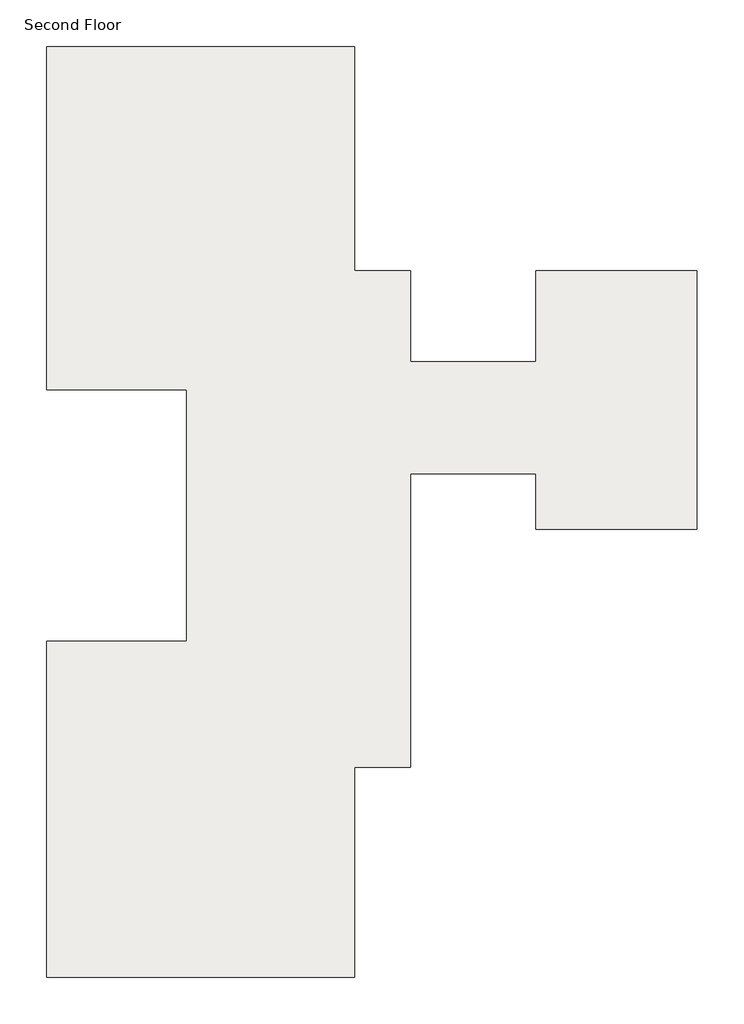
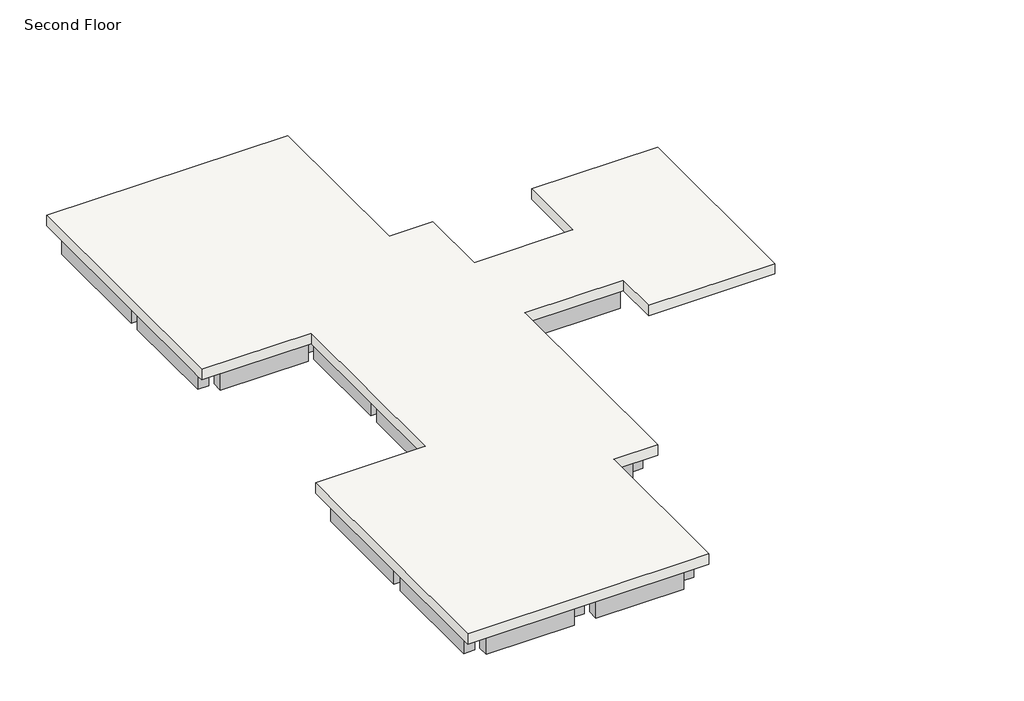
# One storey: 37 beams, 1 slab.
"""IFC4 building model written with IfcOpenShell, lengths in millimetres."""

from ifc_helpers import new_model, si_unit, frame, origin, place, context, project, spatial, polyline, outline, extrude, faceted_brep, element, save

model = new_model("IFC4")

# Units and contexts
model_context = context("Model", 3, world=origin())
ifc_project = project(units=[si_unit("LENGTHUNIT", "METRE", prefix="MILLI")], contexts=[model_context])

# Site, building, storey
site = spatial("IfcSite", under=ifc_project)
building = spatial("IfcBuilding", under=site)
storey = spatial("IfcBuildingStorey", under=building, Name="Second Floor", Elevation=3810.0)

# Beams
placement = place(None, origin())
element("IfcBeam", 1, ObjectType="Concrete-Rectangular Beam : 12 x 24", at=placement, inside=storey, context=model_context, shape_type="SweptSolid", body=[
    extrude(outline(polyline([(-12919.1663981, 10274.1487848), (-12919.1663981, 9969.3487848), (-15357.5663981, 9969.3487848), (-15357.5663981, 10274.1487848), (-12919.1663981, 10274.1487848)])), frame((0.0, 0.0, 2895.6), z_axis=(0.0, 0.0, 1.0), x_axis=(1.0, 0.0, 0.0)), (0.0, 0.0, 1.0), 609.6),
])
element("IfcBeam", 2, ObjectType="Concrete-Rectangular Beam : 12 x 24", at=placement, inside=storey, context=model_context, shape_type="SweptSolid", body=[
    extrude(outline(polyline([(-9871.1663981, 10274.1487848), (-9871.1663981, 9969.3487848), (-12309.5663981, 9969.3487848), (-12309.5663981, 10274.1487848), (-9871.1663981, 10274.1487848)])), frame((0.0, 0.0, 2895.6), z_axis=(0.0, 0.0, 1.0), x_axis=(1.0, 0.0, 0.0)), (0.0, 0.0, 1.0), 609.6),
])
element("IfcBeam", 3, ObjectType="Concrete-Rectangular Beam : 12 x 24", at=placement, inside=storey, context=model_context, shape_type="SweptSolid", body=[
    extrude(outline(polyline([(-15509.9663981, 6616.5487848), (-15814.7663981, 6616.5487848), (-15814.7663981, 9969.3487848), (-15509.9663981, 9969.3487848), (-15509.9663981, 6616.5487848)])), frame((0.0, 0.0, 2895.6), z_axis=(0.0, 0.0, 1.0), x_axis=(1.0, 0.0, 0.0)), (0.0, 0.0, 1.0), 609.6),
])
element("IfcBeam", 4, ObjectType="Concrete-Rectangular Beam : 12 x 24", at=placement, inside=storey, context=model_context, shape_type="SweptSolid", body=[
    extrude(outline(polyline([(-15509.9663981, 3416.1487848), (-15814.7663981, 3416.1487848), (-15814.7663981, 6311.7487848), (-15509.9663981, 6311.7487848), (-15509.9663981, 3416.1487848)])), frame((0.0, 0.0, 2895.6), z_axis=(0.0, 0.0, 1.0), x_axis=(1.0, 0.0, 0.0)), (0.0, 0.0, 1.0), 609.6),
])
element("IfcBeam", 5, ObjectType="Concrete-Rectangular Beam : 12 x 24", at=placement, inside=storey, context=model_context, shape_type="SweptSolid", body=[
    extrude(outline(polyline([(-9413.9663981, 6616.5487848), (-9718.7663981, 6616.5487848), (-9718.7663981, 9969.3487848), (-9413.9663981, 9969.3487848), (-9413.9663981, 6616.5487848)])), frame((0.0, 0.0, 2895.6), z_axis=(0.0, 0.0, 1.0), x_axis=(1.0, 0.0, 0.0)), (0.0, 0.0, 1.0), 609.6),
])
element("IfcBeam", 6, ObjectType="Concrete-Rectangular Beam : 12 x 24", at=placement, inside=storey, context=model_context, shape_type="SweptSolid", body=[
    extrude(outline(polyline([(-12461.9663981, 6616.5487848), (-12766.7663981, 6616.5487848), (-12766.7663981, 9969.3487848), (-12461.9663981, 9969.3487848), (-12461.9663981, 6616.5487848)])), frame((0.0, 0.0, 2895.6), z_axis=(0.0, 0.0, 1.0), x_axis=(1.0, 0.0, 0.0)), (0.0, 0.0, 1.0), 609.6),
])
element("IfcBeam", 7, ObjectType="Concrete-Rectangular Beam : 12 x 24", at=placement, inside=storey, context=model_context, shape_type="SweptSolid", body=[
    extrude(outline(polyline([(-12919.1663981, 6616.5487848), (-12919.1663981, 6311.7487848), (-15357.5663981, 6311.7487848), (-15357.5663981, 6616.5487848), (-12919.1663981, 6616.5487848)])), frame((0.0, 0.0, 2895.6), z_axis=(0.0, 0.0, 1.0), x_axis=(1.0, 0.0, 0.0)), (0.0, 0.0, 1.0), 609.6),
])
element("IfcBeam", 8, ObjectType="Concrete-Rectangular Beam : 12 x 24", at=placement, inside=storey, context=model_context, shape_type="SweptSolid", body=[
    extrude(outline(polyline([(-9871.1663981, 6616.5487848), (-9871.1663981, 6311.7487848), (-12309.5663981, 6311.7487848), (-12309.5663981, 6616.5487848), (-9871.1663981, 6616.5487848)])), frame((0.0, 0.0, 2895.6), z_axis=(0.0, 0.0, 1.0), x_axis=(1.0, 0.0, 0.0)), (0.0, 0.0, 1.0), 609.6),
])
element("IfcBeam", 9, ObjectType="Concrete-Rectangular Beam : 12 x 24", at=placement, inside=storey, context=model_context, shape_type="SweptSolid", body=[
    extrude(outline(polyline([(-12919.1663981, 3416.1487848), (-12919.1663981, 3111.3487848), (-15357.5663981, 3111.3487848), (-15357.5663981, 3416.1487848), (-12919.1663981, 3416.1487848)])), frame((0.0, 0.0, 2895.6), z_axis=(0.0, 0.0, 1.0), x_axis=(1.0, 0.0, 0.0)), (0.0, 0.0, 1.0), 609.6),
])
element("IfcBeam", 10, ObjectType="Concrete-Rectangular Beam : 12 x 24", at=placement, inside=storey, context=model_context, shape_type="SweptSolid", body=[
    extrude(outline(polyline([(-8651.9663981, 3416.1487848), (-8651.9663981, 3111.3487848), (-12309.5663981, 3111.3487848), (-12309.5663981, 3416.1487848), (-8651.9663981, 3416.1487848)])), frame((0.0, 0.0, 2895.6), z_axis=(0.0, 0.0, 1.0), x_axis=(1.0, 0.0, 0.0)), (0.0, 0.0, 1.0), 609.6),
])
element("IfcBeam", 11, ObjectType="Concrete-Rectangular Beam : 12 x 24", at=placement, inside=storey, context=model_context, shape_type="Brep", body=[
    faceted_brep([(-8651.9663981, 5092.5487848, 3505.2), (-8651.9663981, 5397.3487848, 3505.2), (-9413.9663981, 5397.3487848, 3505.2), (-9718.7663981, 5397.3487848, 3505.2), (-9718.7663981, 5092.5487848, 3505.2), (-8651.9663981, 5397.3487848, 2895.6), (-9413.9663981, 5397.3487848, 2895.6), (-9718.7663981, 5397.3487848, 2895.6), (-8651.9663981, 5092.5487848, 2895.6), (-9718.7663981, 5092.5487848, 2895.6)], [[[0, 1, 2, 3, 4]], [[1, 5, 6, 7, 3, 2]], [[5, 8, 9, 7, 6]], [[8, 0, 4, 9]], [[0, 8, 5, 1]], [[4, 3, 7, 9]]]),
])
element("IfcBeam", 12, ObjectType="Concrete-Rectangular Beam : 12 x 24", at=placement, inside=storey, context=model_context, shape_type="SweptSolid", body=[
    extrude(outline(polyline([(-9718.7663981, 6311.7487848), (-9413.9663981, 6311.7487848), (-9413.9663981, 5397.3487848), (-9718.7663981, 5397.3487848), (-9718.7663981, 6311.7487848)])), frame((0.0, 0.0, 2895.6), z_axis=(0.0, 0.0, 1.0), x_axis=(1.0, 0.0, 0.0)), (0.0, 0.0, 1.0), 609.6),
])
element("IfcBeam", 13, ObjectType="Concrete-Rectangular Beam : 12 x 24", at=placement, inside=storey, context=model_context, shape_type="SweptSolid", body=[
    extrude(outline(polyline([(-8194.7663981, 3416.1487848), (-8499.5663981, 3416.1487848), (-8499.5663981, 5092.5487848), (-8194.7663981, 5092.5487848), (-8194.7663981, 3416.1487848)])), frame((0.0, 0.0, 2895.6), z_axis=(0.0, 0.0, 1.0), x_axis=(1.0, 0.0, 0.0)), (0.0, 0.0, 1.0), 609.6),
])
element("IfcBeam", 14, ObjectType="Concrete-Rectangular Beam : 12 x 24", at=placement, inside=storey, context=model_context, shape_type="SweptSolid", body=[
    extrude(outline(polyline([(-12461.9663981, 3416.1487848), (-12766.7663981, 3416.1487848), (-12766.7663981, 6311.7487848), (-12461.9663981, 6311.7487848), (-12461.9663981, 3416.1487848)])), frame((0.0, 0.0, 2895.6), z_axis=(0.0, 0.0, 1.0), x_axis=(1.0, 0.0, 0.0)), (0.0, 0.0, 1.0), 609.6),
])
element("IfcBeam", 15, ObjectType="Concrete-Rectangular Beam : 12 x 24", at=placement, inside=storey, context=model_context, shape_type="SweptSolid", body=[
    extrude(outline(polyline([(-5299.1663981, 3416.1487848), (-5299.1663981, 3111.3487848), (-8042.3663981, 3111.3487848), (-8042.3663981, 3416.1487848), (-5299.1663981, 3416.1487848)])), frame((0.0, 0.0, 2895.6), z_axis=(0.0, 0.0, 1.0), x_axis=(1.0, 0.0, 0.0)), (0.0, 0.0, 1.0), 609.6),
])
element("IfcBeam", 16, ObjectType="Concrete-Rectangular Beam : 12 x 24", at=placement, inside=storey, context=model_context, shape_type="Brep", body=[
    faceted_brep([(-8499.5663981, 368.1487848, 3505.2), (-8194.7663981, 368.1487848, 3505.2), (-8194.7663981, 1282.5487848, 3505.2), (-8194.7663981, 1587.3487848, 3505.2), (-8194.7663981, 3111.3487848, 3505.2), (-8499.5663981, 3111.3487848, 3505.2), (-8499.5663981, 368.1487848, 2895.6), (-8499.5663981, 3111.3487848, 2895.6), (-8194.7663981, 368.1487848, 2895.6), (-8194.7663981, 3111.3487848, 2895.6), (-8194.7663981, 1587.3487848, 2895.6), (-8194.7663981, 1282.5487848, 2895.6)], [[[0, 1, 2, 3, 4, 5]], [[6, 0, 5, 7]], [[8, 6, 7, 9, 10, 11]], [[1, 8, 11, 10, 9, 4, 3, 2]], [[4, 9, 7, 5]], [[1, 0, 6, 8]]]),
])
element("IfcBeam", 17, ObjectType="Concrete-Rectangular Beam : 12 x 24", at=placement, inside=storey, context=model_context, shape_type="SweptSolid", body=[
    extrude(outline(polyline([(-8194.7663981, -2679.8512152), (-8499.5663981, -2679.8512152), (-8499.5663981, 63.3487848), (-8194.7663981, 63.3487848), (-8194.7663981, -2679.8512152)])), frame((0.0, 0.0, 2895.6), z_axis=(0.0, 0.0, 1.0), x_axis=(1.0, 0.0, 0.0)), (0.0, 0.0, 1.0), 609.6),
])
element("IfcBeam", 18, ObjectType="Concrete-Rectangular Beam : 12 x 24", at=placement, inside=storey, context=model_context, shape_type="SweptSolid", body=[
    extrude(outline(polyline([(-8194.7663981, -4813.4512152), (-8499.5663981, -4813.4512152), (-8499.5663981, -2984.6512152), (-8194.7663981, -2984.6512152), (-8194.7663981, -4813.4512152)])), frame((0.0, 0.0, 2895.6), z_axis=(0.0, 0.0, 1.0), x_axis=(1.0, 0.0, 0.0)), (0.0, 0.0, 1.0), 609.6),
])
element("IfcBeam", 19, ObjectType="Concrete-Rectangular Beam : 12 x 24", at=placement, inside=storey, context=model_context, shape_type="SweptSolid", body=[
    extrude(outline(polyline([(-5299.1663981, 1587.3487848), (-5299.1663981, 1282.5487848), (-8194.7663981, 1282.5487848), (-8194.7663981, 1587.3487848), (-5299.1663981, 1587.3487848)])), frame((0.0, 0.0, 2895.6), z_axis=(0.0, 0.0, 1.0), x_axis=(1.0, 0.0, 0.0)), (0.0, 0.0, 1.0), 609.6),
])
element("IfcBeam", 20, ObjectType="Concrete-Rectangular Beam : 12 x 24", at=placement, inside=storey, context=model_context, shape_type="SweptSolid", body=[
    extrude(outline(polyline([(-12461.9663981, 368.1487848), (-12766.7663981, 368.1487848), (-12766.7663981, 3111.3487848), (-12461.9663981, 3111.3487848), (-12461.9663981, 368.1487848)])), frame((0.0, 0.0, 2895.6), z_axis=(0.0, 0.0, 1.0), x_axis=(1.0, 0.0, 0.0)), (0.0, 0.0, 1.0), 609.6),
])
element("IfcBeam", 21, ObjectType="Concrete-Rectangular Beam : 12 x 24", at=placement, inside=storey, context=model_context, shape_type="SweptSolid", body=[
    extrude(outline(polyline([(-12461.9663981, -2679.8512152), (-12766.7663981, -2679.8512152), (-12766.7663981, 63.3487848), (-12461.9663981, 63.3487848), (-12461.9663981, -2679.8512152)])), frame((0.0, 0.0, 2895.6), z_axis=(0.0, 0.0, 1.0), x_axis=(1.0, 0.0, 0.0)), (0.0, 0.0, 1.0), 609.6),
])
element("IfcBeam", 22, ObjectType="Concrete-Rectangular Beam : 12 x 24", at=placement, inside=storey, context=model_context, shape_type="SweptSolid", body=[
    extrude(outline(polyline([(-12919.1663981, -2679.8512152), (-12919.1663981, -2984.6512152), (-15357.5663981, -2984.6512152), (-15357.5663981, -2679.8512152), (-12919.1663981, -2679.8512152)])), frame((0.0, 0.0, 2895.6), z_axis=(0.0, 0.0, 1.0), x_axis=(1.0, 0.0, 0.0)), (0.0, 0.0, 1.0), 609.6),
])
element("IfcBeam", 23, ObjectType="Concrete-Rectangular Beam : 12 x 24", at=placement, inside=storey, context=model_context, shape_type="SweptSolid", body=[
    extrude(outline(polyline([(-8651.9663981, -2679.8512152), (-8651.9663981, -2984.6512152), (-12309.5663981, -2984.6512152), (-12309.5663981, -2679.8512152), (-8651.9663981, -2679.8512152)])), frame((0.0, 0.0, 2895.6), z_axis=(0.0, 0.0, 1.0), x_axis=(1.0, 0.0, 0.0)), (0.0, 0.0, 1.0), 609.6),
])
element("IfcBeam", 24, ObjectType="Concrete-Rectangular Beam : 12 x 24", at=placement, inside=storey, context=model_context, shape_type="SweptSolid", body=[
    extrude(outline(polyline([(-8651.9663981, 368.1487848), (-8651.9663981, 63.3487848), (-12309.5663981, 63.3487848), (-12309.5663981, 368.1487848), (-8651.9663981, 368.1487848)])), frame((0.0, 0.0, 2895.6), z_axis=(0.0, 0.0, 1.0), x_axis=(1.0, 0.0, 0.0)), (0.0, 0.0, 1.0), 609.6),
])
element("IfcBeam", 25, ObjectType="Concrete-Rectangular Beam : 12 x 24", at=placement, inside=storey, context=model_context, shape_type="SweptSolid", body=[
    extrude(outline(polyline([(-15509.9663981, -6032.6512152), (-15814.7663981, -6032.6512152), (-15814.7663981, -2984.6512152), (-15509.9663981, -2984.6512152), (-15509.9663981, -6032.6512152)])), frame((0.0, 0.0, 2895.6), z_axis=(0.0, 0.0, 1.0), x_axis=(1.0, 0.0, 0.0)), (0.0, 0.0, 1.0), 609.6),
])
element("IfcBeam", 26, ObjectType="Concrete-Rectangular Beam : 12 x 24", at=placement, inside=storey, context=model_context, shape_type="SweptSolid", body=[
    extrude(outline(polyline([(-12919.1663981, -6032.6512152), (-12919.1663981, -6337.4512152), (-15357.5663981, -6337.4512152), (-15357.5663981, -6032.6512152), (-12919.1663981, -6032.6512152)])), frame((0.0, 0.0, 2895.6), z_axis=(0.0, 0.0, 1.0), x_axis=(1.0, 0.0, 0.0)), (0.0, 0.0, 1.0), 609.6),
])
element("IfcBeam", 27, ObjectType="Concrete-Rectangular Beam : 12 x 24", at=placement, inside=storey, context=model_context, shape_type="SweptSolid", body=[
    extrude(outline(polyline([(-9871.1663981, -6032.6512152), (-9871.1663981, -6337.4512152), (-12309.5663981, -6337.4512152), (-12309.5663981, -6032.6512152), (-9871.1663981, -6032.6512152)])), frame((0.0, 0.0, 2895.6), z_axis=(0.0, 0.0, 1.0), x_axis=(1.0, 0.0, 0.0)), (0.0, 0.0, 1.0), 609.6),
])
element("IfcBeam", 28, ObjectType="Concrete-Rectangular Beam : 12 x 24", at=placement, inside=storey, context=model_context, shape_type="SweptSolid", body=[
    extrude(outline(polyline([(-12461.9663981, -6032.6512152), (-12766.7663981, -6032.6512152), (-12766.7663981, -2984.6512152), (-12461.9663981, -2984.6512152), (-12461.9663981, -6032.6512152)])), frame((0.0, 0.0, 2895.6), z_axis=(0.0, 0.0, 1.0), x_axis=(1.0, 0.0, 0.0)), (0.0, 0.0, 1.0), 609.6),
])
element("IfcBeam", 29, ObjectType="Concrete-Rectangular Beam : 12 x 24", at=placement, inside=storey, context=model_context, shape_type="SweptSolid", body=[
    extrude(outline(polyline([(-15509.9663981, -9385.4512152), (-15814.7663981, -9385.4512152), (-15814.7663981, -6337.4512152), (-15509.9663981, -6337.4512152), (-15509.9663981, -9385.4512152)])), frame((0.0, 0.0, 2895.6), z_axis=(0.0, 0.0, 1.0), x_axis=(1.0, 0.0, 0.0)), (0.0, 0.0, 1.0), 609.6),
])
element("IfcBeam", 30, ObjectType="Concrete-Rectangular Beam : 12 x 24", at=placement, inside=storey, context=model_context, shape_type="SweptSolid", body=[
    extrude(outline(polyline([(-12919.1663981, -9385.4512152), (-12919.1663981, -9690.2512152), (-15357.5663981, -9690.2512152), (-15357.5663981, -9385.4512152), (-12919.1663981, -9385.4512152)])), frame((0.0, 0.0, 2895.6), z_axis=(0.0, 0.0, 1.0), x_axis=(1.0, 0.0, 0.0)), (0.0, 0.0, 1.0), 609.6),
])
element("IfcBeam", 31, ObjectType="Concrete-Rectangular Beam : 12 x 24", at=placement, inside=storey, context=model_context, shape_type="SweptSolid", body=[
    extrude(outline(polyline([(-9871.1663981, -9385.4512152), (-9871.1663981, -9690.2512152), (-12309.5663981, -9690.2512152), (-12309.5663981, -9385.4512152), (-9871.1663981, -9385.4512152)])), frame((0.0, 0.0, 2895.6), z_axis=(0.0, 0.0, 1.0), x_axis=(1.0, 0.0, 0.0)), (0.0, 0.0, 1.0), 609.6),
])
element("IfcBeam", 32, ObjectType="Concrete-Rectangular Beam : 12 x 24", at=placement, inside=storey, context=model_context, shape_type="SweptSolid", body=[
    extrude(outline(polyline([(-12461.9663981, -9385.4512152), (-12766.7663981, -9385.4512152), (-12766.7663981, -6337.4512152), (-12461.9663981, -6337.4512152), (-12461.9663981, -9385.4512152)])), frame((0.0, 0.0, 2895.6), z_axis=(0.0, 0.0, 1.0), x_axis=(1.0, 0.0, 0.0)), (0.0, 0.0, 1.0), 609.6),
])
element("IfcBeam", 33, ObjectType="Concrete-Rectangular Beam : 12 x 24", at=placement, inside=storey, context=model_context, shape_type="SweptSolid", body=[
    extrude(outline(polyline([(-9413.9663981, -9385.4512152), (-9718.7663981, -9385.4512152), (-9718.7663981, -6337.4512152), (-9413.9663981, -6337.4512152), (-9413.9663981, -9385.4512152)])), frame((0.0, 0.0, 2895.6), z_axis=(0.0, 0.0, 1.0), x_axis=(1.0, 0.0, 0.0)), (0.0, 0.0, 1.0), 609.6),
])
element("IfcBeam", 34, ObjectType="Concrete-Rectangular Beam : 12 x 24", at=placement, inside=storey, context=model_context, shape_type="Brep", body=[
    faceted_brep([(-9718.7663981, -6032.6512152, 3505.2), (-9413.9663981, -6032.6512152, 3505.2), (-9413.9663981, -5118.2512152, 3505.2), (-9413.9663981, -4813.4512152, 3505.2), (-9718.7663981, -4813.4512152, 3505.2), (-9413.9663981, -6032.6512152, 2895.6), (-9413.9663981, -5118.2512152, 2895.6), (-9413.9663981, -4813.4512152, 2895.6), (-9718.7663981, -6032.6512152, 2895.6), (-9718.7663981, -4813.4512152, 2895.6)], [[[0, 1, 2, 3, 4]], [[1, 5, 6, 7, 3, 2]], [[5, 8, 9, 7, 6]], [[8, 0, 4, 9]], [[0, 8, 5, 1]], [[4, 3, 7, 9]]]),
])
element("IfcBeam", 35, ObjectType="Concrete-Rectangular Beam : 12 x 24", at=placement, inside=storey, context=model_context, shape_type="SweptSolid", body=[
    extrude(outline(polyline([(-8651.9663981, -4813.4512152), (-8651.9663981, -5118.2512152), (-9413.9663981, -5118.2512152), (-9413.9663981, -4813.4512152), (-8651.9663981, -4813.4512152)])), frame((0.0, 0.0, 2895.6), z_axis=(0.0, 0.0, 1.0), x_axis=(1.0, 0.0, 0.0)), (0.0, 0.0, 1.0), 609.6),
])
element("IfcBeam", 36, ObjectType="Concrete-Rectangular Beam : 12 x 24", at=placement, inside=storey, context=model_context, shape_type="SweptSolid", body=[
    extrude(outline(polyline([(-2403.5663981, 3416.1487848), (-2403.5663981, 3111.3487848), (-4689.5663981, 3111.3487848), (-4689.5663981, 3416.1487848), (-2403.5663981, 3416.1487848)])), frame((0.0, 0.0, 2895.6), z_axis=(0.0, 0.0, 1.0), x_axis=(1.0, 0.0, 0.0)), (0.0, 0.0, 1.0), 609.6),
])
element("IfcBeam", 37, ObjectType="Concrete-Rectangular Beam : 12 x 24", at=placement, inside=storey, context=model_context, shape_type="SweptSolid", body=[
    extrude(outline(polyline([(-2403.5663981, 1587.3487848), (-2403.5663981, 1282.5487848), (-4689.5663981, 1282.5487848), (-4689.5663981, 1587.3487848), (-2403.5663981, 1587.3487848)])), frame((0.0, 0.0, 2895.6), z_axis=(0.0, 0.0, 1.0), x_axis=(1.0, 0.0, 0.0)), (0.0, 0.0, 1.0), 609.6),
])

# Slab
element("IfcSlab", 38, ObjectType="Generic - 12\"", at=placement, inside=storey, context=model_context, shape_type="Brep", body=[
    faceted_brep([(-9261.5663981, 10426.5487848, 3505.2), (-9261.5663981, 10274.1487848, 3505.2), (-9261.5663981, 9969.3487848, 3505.2), (-9261.5663981, 6616.5487848, 3505.2), (-9261.5663981, 6311.7487848, 3505.2), (-9261.5663981, 5549.7487848, 3505.2), (-8042.3663981, 5549.7487848, 3505.2), (-8042.3663981, 5397.3487848, 3505.2), (-8042.3663981, 5092.5487848, 3505.2), (-8042.3663981, 3568.5487848, 3505.2), (-5299.1663981, 3568.5487848, 3505.2), (-5299.1663981, 5549.7487848, 3505.2), (-1793.9663981, 5549.7487848, 3505.2), (-1793.9663981, 3416.1487848, 3505.2), (-1793.9663981, 3111.3487848, 3505.2), (-1793.9663981, 1587.3487848, 3505.2), (-1793.9663981, 1282.5487848, 3505.2), (-1793.9663981, -89.0512152, 3505.2), (-5299.1663981, -89.0512152, 3505.2), (-5299.1663981, 1130.1487848, 3505.2), (-8042.3663981, 1130.1487848, 3505.2), (-8042.3663981, 368.1487848, 3505.2), (-8042.3663981, 63.3487848, 3505.2), (-8042.3663981, -2679.8512152, 3505.2), (-8042.3663981, -2984.6512152, 3505.2), (-8042.3663981, -4813.4512152, 3505.2), (-8042.3663981, -5118.2512152, 3505.2), (-8042.3663981, -5270.6512152, 3505.2), (-9261.5663981, -5270.6512152, 3505.2), (-9261.5663981, -6032.6512152, 3505.2), (-9261.5663981, -6337.4512152, 3505.2), (-9261.5663981, -9385.4512152, 3505.2), (-9261.5663981, -9690.2512152, 3505.2), (-9261.5663981, -9842.6512152, 3505.2), (-15967.1663981, -9842.6512152, 3505.2), (-15967.1663981, -9690.2512152, 3505.2), (-15967.1663981, -9385.4512152, 3505.2), (-15967.1663981, -6337.4512152, 3505.2), (-15967.1663981, -6032.6512152, 3505.2), (-15967.1663981, -2984.6512152, 3505.2), (-15967.1663981, -2679.8512152, 3505.2), (-15967.1663981, -2527.4512152, 3505.2), (-12919.1663981, -2527.4512152, 3505.2), (-12919.1663981, 63.3487848, 3505.2), (-12919.1663981, 368.1487848, 3505.2), (-12919.1663981, 2958.9487848, 3505.2), (-15967.1663981, 2958.9487848, 3505.2), (-15967.1663981, 3111.3487848, 3505.2), (-15967.1663981, 3416.1487848, 3505.2), (-15967.1663981, 6311.7487848, 3505.2), (-15967.1663981, 6616.5487848, 3505.2), (-15967.1663981, 9969.3487848, 3505.2), (-15967.1663981, 10274.1487848, 3505.2), (-15967.1663981, 10426.5487848, 3505.2), (-9261.5663981, 10426.5487848, 3810.0), (-15967.1663981, 10426.5487848, 3810.0), (-15967.1663981, 2958.9487848, 3810.0), (-12919.1663981, 2958.9487848, 3810.0), (-12919.1663981, -2527.4512152, 3810.0), (-15967.1663981, -2527.4512152, 3810.0), (-15967.1663981, -9842.6512152, 3810.0), (-9261.5663981, -9842.6512152, 3810.0), (-9261.5663981, -5270.6512152, 3810.0), (-8042.3663981, -5270.6512152, 3810.0), (-8042.3663981, 1130.1487848, 3810.0), (-5299.1663981, 1130.1487848, 3810.0), (-5299.1663981, -89.0512152, 3810.0), (-1793.9663981, -89.0512152, 3810.0), (-1793.9663981, 5549.7487848, 3810.0), (-5299.1663981, 5549.7487848, 3810.0), (-5299.1663981, 3568.5487848, 3810.0), (-8042.3663981, 3568.5487848, 3810.0), (-8042.3663981, 5549.7487848, 3810.0), (-9261.5663981, 5549.7487848, 3810.0)], [[[0, 1, 2, 3, 4, 5, 6, 7, 8, 9, 10, 11, 12, 13, 14, 15, 16, 17, 18, 19, 20, 21, 22, 23, 24, 25, 26, 27, 28, 29, 30, 31, 32, 33, 34, 35, 36, 37, 38, 39, 40, 41, 42, 43, 44, 45, 46, 47, 48, 49, 50, 51, 52, 53]], [[54, 55, 56, 57, 58, 59, 60, 61, 62, 63, 64, 65, 66, 67, 68, 69, 70, 71, 72, 73]], [[5, 4, 3, 2, 1, 0, 54, 73]], [[6, 5, 73, 72]], [[9, 8, 7, 6, 72, 71]], [[10, 9, 71, 70]], [[11, 10, 70, 69]], [[12, 11, 69, 68]], [[17, 16, 15, 14, 13, 12, 68, 67]], [[18, 17, 67, 66]], [[19, 18, 66, 65]], [[20, 19, 65, 64]], [[27, 26, 25, 24, 23, 22, 21, 20, 64, 63]], [[28, 27, 63, 62]], [[33, 32, 31, 30, 29, 28, 62, 61]], [[34, 33, 61, 60]], [[41, 40, 39, 38, 37, 36, 35, 34, 60, 59]], [[42, 41, 59, 58]], [[45, 44, 43, 42, 58, 57]], [[46, 45, 57, 56]], [[53, 52, 51, 50, 49, 48, 47, 46, 56, 55]], [[0, 53, 55, 54]]]),
])

save(model, "model.ifc")
